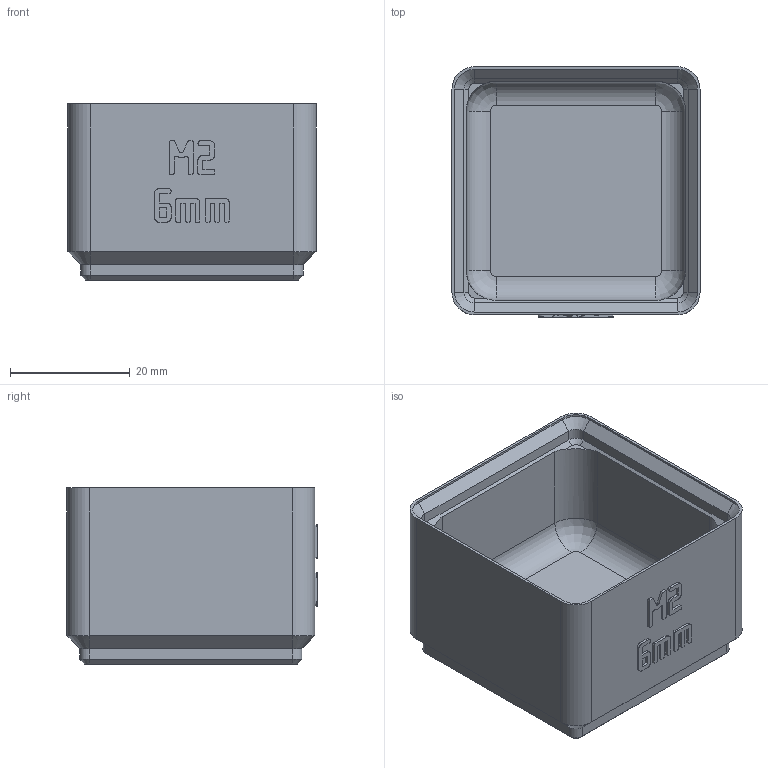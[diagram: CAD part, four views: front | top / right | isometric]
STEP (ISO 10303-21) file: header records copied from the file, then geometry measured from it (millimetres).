
FILE_DESCRIPTION(('Open CASCADE Model'),'2;1');
FILE_NAME('Open CASCADE Shape Model','2026-11-03T10:23:14',('Author'),( 'Open CASCADE'),'Open CASCADE STEP processor 8.0','build123d', 'Unknown');
FILE_SCHEMA(('AUTOMOTIVE_DESIGN { 1 0 10303 214 1 1 1 1 }'));
Length unit declared in the file: millimetre
Products named in the file (1): COMPOUND
Bounding box: 41.5 x 41.9 x 29.5 mm (x, y, z)
Volume: 18936.9 mm3; surface area: 10638.7 mm2
Topology: 1 solids, 1 shells, 603 faces, 1726 edges, 1132 vertices
Faces by surface type: plane 559, cylinder 24, cone 16, revolution 4
Entity records: 40600 total; most frequent: CARTESIAN_POINT 8290, DIRECTION 5214, LINE 3854, VECTOR 3854, ORIENTED_EDGE 3452, PCURVE 3452, DEFINITIONAL_REPRESENTATION 3452, EDGE_CURVE 1726
